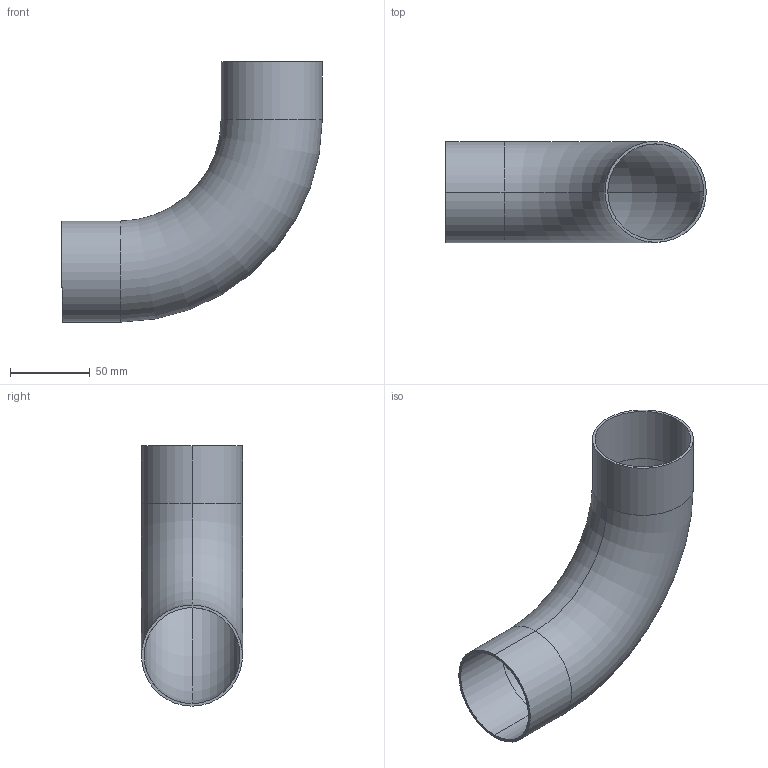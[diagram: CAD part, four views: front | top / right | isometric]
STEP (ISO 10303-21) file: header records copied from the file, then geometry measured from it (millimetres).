
FILE_DESCRIPTION (( 'STEP AP203' ), '1' );
FILE_NAME ('E2S2.5.STEP', '2018-04-30T18:01:50', ( 'vneprd' ), ( 'Microsoft' ), 'SwSTEP 2.0', 'SolidWorks 2014', '' );
FILE_SCHEMA (( 'CONFIG_CONTROL_DESIGN' ));
Length unit declared in the file: inch
Products named in the file (1): E2S2.5
Bounding box: 163.63 x 63.5 x 163.5 mm (x, y, z)
Volume: 71380.1 mm3; surface area: 87106.1 mm2
Topology: 1 solids, 1 shells, 14 faces, 28 edges, 16 vertices
Faces by surface type: torus 4, cylinder 4, bspline 4, plane 2
Entity records: 762 total; most frequent: CARTESIAN_POINT 396, DIRECTION 62, ORIENTED_EDGE 56, EDGE_CURVE 28, AXIS2_PLACEMENT_3D 27, VERTEX_POINT 16, EDGE_LOOP 16, CIRCLE 16
